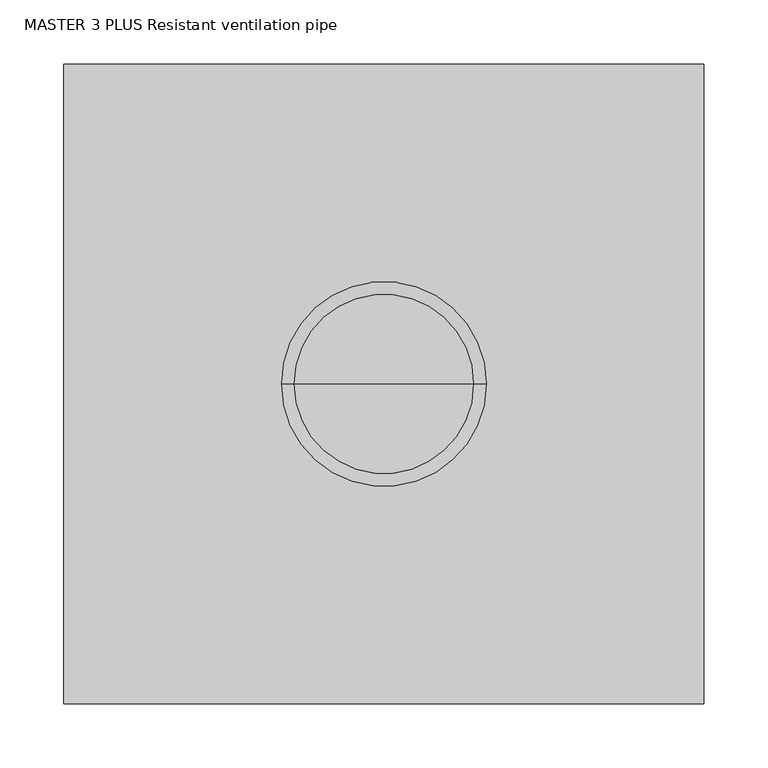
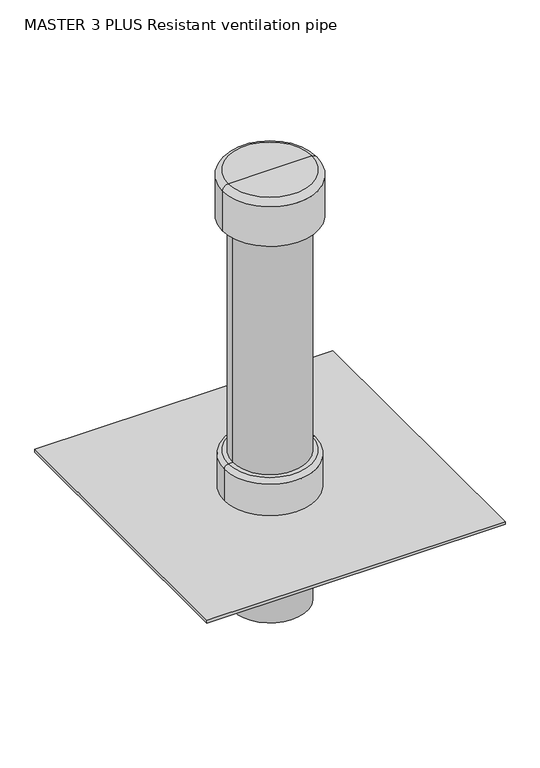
"""IFC4 building model written with IfcOpenShell, lengths in millimetres: valve geometry, MASTER 3 PLUS Resistant ventilation pipe : DN125, Lesp = 200, L3 = 560 mm."""

from ifc_helpers import new_model, si_unit, point, frame, origin, origin_with_axes, origin_2d, place, context, project, spatial, polyline, circle_curve, ellipse_curve, trimmed, segment, composite_curve, outline, extrude, source, transform, mapped, element, save
from ifc_brep_helpers import plane_surface, cylinder_surface, revolved_surface, advanced_brep


def master_3_plus_resistant_ventilation_pipe_cba64e1d(model_context):
    return source(origin(), model_context, "Body", "SolidModel", [
        advanced_brep(
        [(70.0, 0.0, 760.0), (-70.0, 0.0, 760.0), (0.0, 0.0, 760.0), (80.0, 0.0, 680.0), (-80.0, 0.0, 680.0), (-80.0, 0.0, 750.0), (80.0, 0.0, 750.0), (0.0, 0.0, 680.0)],
        [
            (0, 1, circle_curve(frame((0.0, 0.0, 760.0), z_axis=(0.0, 0.0, 1.0), x_axis=(-1.0, 0.0, 0.0)), 70.0)),
            (1, 2),
            (2, 0),
            (1, 0, circle_curve(frame((0.0, 0.0, 760.0), z_axis=(0.0, 0.0, 1.0), x_axis=(-1.0, 0.0, 0.0)), 70.0)),
            (3, 4, circle_curve(frame((0.0, 0.0, 680.0), z_axis=(0.0, 0.0, 1.0), x_axis=(-1.0, 0.0, 0.0)), 80.0)),
            (4, 5),
            (5, 6, circle_curve(frame((0.0, 0.0, 750.0), z_axis=(0.0, 0.0, -1.0), x_axis=(-1.0, 0.0, 0.0)), 80.0)),
            (6, 3),
            (4, 3, circle_curve(frame((0.0, 0.0, 680.0), z_axis=(0.0, 0.0, 1.0), x_axis=(-1.0, 0.0, 0.0)), 80.0)),
            (6, 5, circle_curve(frame((0.0, 0.0, 750.0), z_axis=(0.0, 0.0, -1.0), x_axis=(-1.0, 0.0, 0.0)), 80.0)),
            (7, 4),
            (3, 7),
            (5, 1, circle_curve(frame((-70.0, 0.0, 750.0), z_axis=(0.0, 1.0, 0.0), x_axis=(1.0, 0.0, 0.0)), 10.0)),
            (0, 6, circle_curve(frame((70.0, 0.0, 750.0), z_axis=(0.0, 1.0, 0.0), x_axis=(-1.0, 0.0, 0.0)), 10.0)),
        ],
        [
            plane_surface(frame((0.0, 0.0, 760.0), z_axis=(0.0, 0.0, 1.0), x_axis=(-1.0, 0.0, 0.0))),
            cylinder_surface(frame((0.0, 0.0, 760.0), z_axis=(0.0, 0.0, -1.0), x_axis=(-1.0, 0.0, 0.0)), 80.0),
            plane_surface(frame((0.0, 0.0, 680.0), z_axis=(0.0, 0.0, -1.0), x_axis=(-1.0, 0.0, 0.0))),
            revolved_surface(trimmed(ellipse_curve(frame((-70.0, 0.0, 750.0), z_axis=(0.0, -1.0, 0.0), x_axis=(1.0, 0.0, 0.0)), 10.0, 10.0), [point((-70.0, 0.0, 760.0))], [point((-80.0, 0.0, 750.0))], True, "CARTESIAN"), (0.0, 0.0, 760.0), (0.0, 0.0, -1.0)),
        ],
        [
            (0, [[1, 2, 3]]),
            (0, [[4, -3, -2]]),
            (1, [[5, 6, 7, 8]]),
            (1, [[9, -8, 10, -6]]),
            (2, [[11, -5, 12]]),
            (2, [[-12, -9, -11]]),
            (3, [[-7, 13, -1, 14]]),
            (3, [[-10, -14, -4, -13]]),
        ],
    ),
        extrude(outline(polyline([(250.0, 250.0), (250.0, -250.0), (-250.0, -250.0), (-250.0, 250.0), (250.0, 250.0)]), holes=[composite_curve([segment(trimmed(circle_curve(origin_2d(), 62.5), [point((-62.5, 0.0))], [point((62.5, 0.0))], True, "CARTESIAN"), True, "CONTINUOUS"), segment(trimmed(circle_curve(origin_2d(), 62.5), [point((62.5, 0.0))], [point((-62.5, 0.0))], True, "CARTESIAN"), True, "CONTINUOUS")], self_intersect=False)]), frame((0.0, 0.0, 194.9838403), z_axis=(0.0, 0.0, 1.0), x_axis=(1.0, 0.0, 0.0)), (0.0, 0.0, 1.0), 5.0161597),
        advanced_brep(
        [(77.0, 0.0, 200.0), (-77.0, 0.0, 200.0), (-77.0, 0.0, 255.75), (77.0, 0.0, 255.75), (62.5, 0.0, 200.0), (-62.5, 0.0, 200.0), (62.5, 0.0, 263.0), (-62.5, 0.0, 263.0), (69.75, 0.0, 263.0), (-69.75, 0.0, 263.0)],
        [
            (0, 1, circle_curve(frame((0.0, 0.0, 200.0), z_axis=(0.0, 0.0, 1.0), x_axis=(-1.0, 0.0, 0.0)), 77.0)),
            (1, 2),
            (2, 3, circle_curve(frame((0.0, 0.0, 255.75), z_axis=(0.0, 0.0, -1.0), x_axis=(-1.0, 0.0, 0.0)), 77.0)),
            (3, 0),
            (1, 0, circle_curve(frame((0.0, 0.0, 200.0), z_axis=(0.0, 0.0, 1.0), x_axis=(-1.0, 0.0, 0.0)), 77.0)),
            (3, 2, circle_curve(frame((0.0, 0.0, 255.75), z_axis=(0.0, 0.0, -1.0), x_axis=(-1.0, 0.0, 0.0)), 77.0)),
            (4, 5, circle_curve(frame((0.0, 0.0, 200.0), z_axis=(0.0, 0.0, 1.0), x_axis=(-1.0, 0.0, 0.0)), 62.5)),
            (5, 1),
            (0, 4),
            (5, 4, circle_curve(frame((0.0, 0.0, 200.0), z_axis=(0.0, 0.0, 1.0), x_axis=(-1.0, 0.0, 0.0)), 62.5)),
            (6, 7, circle_curve(frame((0.0, 0.0, 263.0), z_axis=(0.0, 0.0, 1.0), x_axis=(-1.0, 0.0, 0.0)), 62.5)),
            (7, 5),
            (4, 6),
            (7, 6, circle_curve(frame((0.0, 0.0, 263.0), z_axis=(0.0, 0.0, 1.0), x_axis=(-1.0, 0.0, 0.0)), 62.5)),
            (8, 9, circle_curve(frame((0.0, 0.0, 263.0), z_axis=(0.0, 0.0, 1.0), x_axis=(-1.0, 0.0, 0.0)), 69.75)),
            (9, 7),
            (6, 8),
            (9, 8, circle_curve(frame((0.0, 0.0, 263.0), z_axis=(0.0, 0.0, 1.0), x_axis=(-1.0, 0.0, 0.0)), 69.75)),
            (2, 9, circle_curve(frame((-69.75, 0.0, 255.75), z_axis=(0.0, 1.0, 0.0), x_axis=(1.0, 0.0, 0.0)), 7.25)),
            (8, 3, circle_curve(frame((69.75, 0.0, 255.75), z_axis=(0.0, 1.0, 0.0), x_axis=(-1.0, 0.0, 0.0)), 7.25)),
        ],
        [
            cylinder_surface(frame((0.0, 0.0, 263.0), z_axis=(0.0, 0.0, -1.0), x_axis=(-1.0, 0.0, 0.0)), 77.0),
            plane_surface(frame((0.0, 0.0, 200.0), z_axis=(0.0, 0.0, -1.0), x_axis=(-1.0, 0.0, 0.0))),
            revolved_surface(polyline([(-62.5, 0.0, 200.0), (-62.5, 0.0, 263.0)]), (0.0, 0.0, 263.0), (0.0, 0.0, -1.0)),
            plane_surface(frame((0.0, 0.0, 263.0), z_axis=(0.0, 0.0, 1.0), x_axis=(-1.0, 0.0, 0.0))),
            revolved_surface(trimmed(ellipse_curve(frame((-69.75, 0.0, 255.75), z_axis=(0.0, -1.0, 0.0), x_axis=(1.0, 0.0, 0.0)), 7.25, 7.25), [point((-69.75, 0.0, 263.0))], [point((-77.0, 0.0, 255.75))], True, "CARTESIAN"), (0.0, 0.0, 263.0), (0.0, 0.0, -1.0)),
        ],
        [
            (0, [[1, 2, 3, 4]]),
            (0, [[5, -4, 6, -2]]),
            (1, [[7, 8, -1, 9]]),
            (1, [[10, -9, -5, -8]]),
            (2, [[11, 12, -7, 13]]),
            (2, [[14, -13, -10, -12]]),
            (3, [[15, 16, -11, 17]]),
            (3, [[18, -17, -14, -16]]),
            (4, [[-3, 19, -15, 20]]),
            (4, [[-6, -20, -18, -19]]),
        ],
    ),
        extrude(outline(composite_curve([segment(trimmed(circle_curve(origin_2d(), 62.5), [point((62.5, 0.0))], [point((-62.5, 0.0))], False, "CARTESIAN"), True, "CONTINUOUS"), segment(trimmed(circle_curve(origin_2d(), 62.5), [point((-62.5, 0.0))], [point((62.5, 0.0))], False, "CARTESIAN"), True, "CONTINUOUS")], self_intersect=False)), frame((0.0, 0.0, 200.0), z_axis=(0.0, 0.0, 1.0), x_axis=(1.0, 0.0, 0.0)), (0.0, 0.0, 1.0), 532.0),
        extrude(outline(composite_curve([segment(trimmed(circle_curve(origin_2d(), 62.5), [point((-62.5, 0.0))], [point((62.5, 0.0))], False, "CARTESIAN"), True, "CONTINUOUS"), segment(trimmed(circle_curve(origin_2d(), 62.5), [point((62.5, 0.0))], [point((-62.5, 0.0))], False, "CARTESIAN"), True, "CONTINUOUS")], self_intersect=False)), origin_with_axes(), (0.0, 0.0, 1.0), 194.9838403),
    ])


if __name__ == "__main__":
    model = new_model("IFC4")
    model_context = context("Model", 3, world=origin())
    ifc_project = project(units=[si_unit("LENGTHUNIT", "METRE", prefix="MILLI")], contexts=[model_context])
    site = spatial("IfcSite", under=ifc_project)
    building = spatial("IfcBuilding", under=site)
    placement = place(None, origin())
    master_3_plus_resistant_ventilation_pipe_shape = master_3_plus_resistant_ventilation_pipe_cba64e1d(model_context)
    element("IfcValve", 1, ObjectType="MASTER 3 PLUS Resistant ventilation pipe : DN125, Lesp = 200, L3 = 560 mm", at=placement, inside=building, context=model_context, shape_type="MappedRepresentation", body=[
        mapped(master_3_plus_resistant_ventilation_pipe_shape, transform((0.0, 0.0, 0.0), x_axis=(1.0, 0.0, 0.0), y_axis=(0.0, 1.0, 0.0), z_axis=(0.0, 0.0, 1.0))),
    ])
    save(model, "model.ifc")
